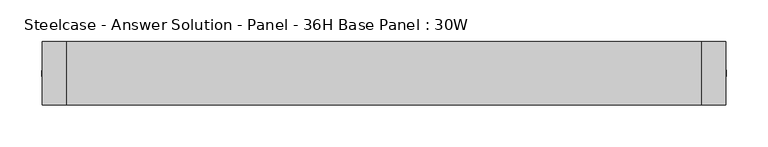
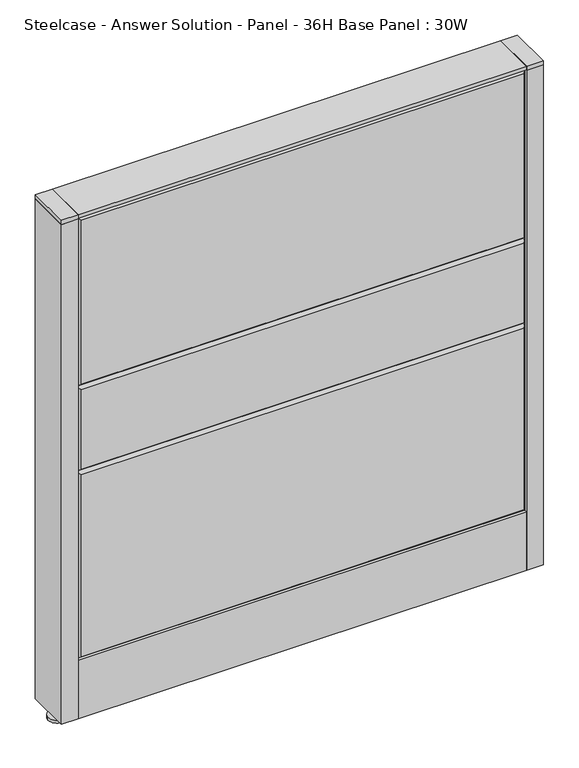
"""IFC4 building model written with IfcOpenShell, lengths in millimetres: furniture geometry, Steelcase - Answer Solution - Panel - 36H Base Panel : 30W."""

from ifc_helpers import new_model, si_unit, point, frame, frame_2d, origin, place, context, project, spatial, polyline, circle_curve, trimmed, segment, composite_curve, outline, extrude, faceted_brep, source, transform, mapped, element, save


def steelcase_answer_solution_panel_36h_base_panel_30w_16481c69(model_context):
    return source(origin(), model_context, "Body", "SolidModel", [
        extrude(outline(composite_curve([segment(trimmed(circle_curve(frame_2d((395.224, 0.0320214)), 5.08), [point((400.304, 0.0320214))], [point((390.144, 0.0320214))], False, "CARTESIAN"), True, "CONTINUOUS"), segment(trimmed(circle_curve(frame_2d((395.224, 0.0320214)), 5.08), [point((390.144, 0.0320214))], [point((400.304, 0.0320214))], False, "CARTESIAN"), True, "CONTINUOUS")], self_intersect=False)), frame((0.0, 0.0, 5.0799671), z_axis=(0.0, 0.0, 1.0), x_axis=(1.0, 0.0, 0.0)), (0.0, 0.0, 1.0), 10.414),
        extrude(outline(composite_curve([segment(trimmed(circle_curve(frame_2d((395.224, 0.0320214)), 15.24), [point((410.464, 0.0320214))], [point((379.984, 0.0320214))], False, "CARTESIAN"), True, "CONTINUOUS"), segment(trimmed(circle_curve(frame_2d((395.224, 0.0320214)), 15.24), [point((379.984, 0.0320214))], [point((410.464, 0.0320214))], False, "CARTESIAN"), True, "CONTINUOUS")], self_intersect=False)), frame((0.0, 0.0, -3.29e-05), z_axis=(0.0, 0.0, 1.0), x_axis=(1.0, 0.0, 0.0)), (0.0, 0.0, 1.0), 5.08),
        extrude(outline(polyline([(409.575, 38.1320408), (409.575, -38.0679592), (381.0, -38.0679592), (381.0, 38.1320408), (409.575, 38.1320408)])), frame((0.0, 0.0, 913.4348), z_axis=(0.0, 0.0, 1.0), x_axis=(1.0, 0.0, 0.0)), (0.0, 0.0, 1.0), 7.3151671),
        extrude(outline(polyline([(409.575, 38.1320408), (409.575, -38.0679592), (381.0, -38.0679592), (381.0, 38.1320408), (409.575, 38.1320408)])), frame((0.0, 0.0, 15.4939671), z_axis=(0.0, 0.0, 1.0), x_axis=(1.0, 0.0, 0.0)), (0.0, 0.0, 1.0), 897.9408329),
        extrude(outline(composite_curve([segment(trimmed(circle_curve(frame_2d((-395.224, -0.0320214)), 5.08), [point((-400.304, -0.0320214))], [point((-390.144, -0.0320214))], False, "CARTESIAN"), True, "CONTINUOUS"), segment(trimmed(circle_curve(frame_2d((-395.224, -0.0320214)), 5.08), [point((-390.144, -0.0320214))], [point((-400.304, -0.0320214))], False, "CARTESIAN"), True, "CONTINUOUS")], self_intersect=False)), frame((0.0, 0.0, 5.0799671), z_axis=(0.0, 0.0, 1.0), x_axis=(1.0, 0.0, 0.0)), (0.0, 0.0, 1.0), 10.414),
        extrude(outline(composite_curve([segment(trimmed(circle_curve(frame_2d((-395.224, -0.0320214)), 15.24), [point((-410.464, -0.0320214))], [point((-379.984, -0.0320214))], False, "CARTESIAN"), True, "CONTINUOUS"), segment(trimmed(circle_curve(frame_2d((-395.224, -0.0320214)), 15.24), [point((-379.984, -0.0320214))], [point((-410.464, -0.0320214))], False, "CARTESIAN"), True, "CONTINUOUS")], self_intersect=False)), frame((0.0, 0.0, -3.29e-05), z_axis=(0.0, 0.0, 1.0), x_axis=(1.0, 0.0, 0.0)), (0.0, 0.0, 1.0), 5.08),
        extrude(outline(polyline([(-409.575, -38.1320408), (-409.575, 38.0679592), (-381.0, 38.0679592), (-381.0, -38.1320408), (-409.575, -38.1320408)])), frame((0.0, 0.0, 913.4348), z_axis=(0.0, 0.0, 1.0), x_axis=(1.0, 0.0, 0.0)), (0.0, 0.0, 1.0), 7.3151671),
        extrude(outline(polyline([(-409.575, -38.1320408), (-409.575, 38.0679592), (-381.0, 38.0679592), (-381.0, -38.1320408), (-409.575, -38.1320408)])), frame((0.0, 0.0, 15.4939671), z_axis=(0.0, 0.0, 1.0), x_axis=(1.0, 0.0, 0.0)), (0.0, 0.0, 1.0), 897.9408329),
        faceted_brep([(376.174, 38.1635011, 909.574), (376.174, 38.1635011, 766.826), (-376.174, 38.1635011, 766.826), (-376.174, 38.1635011, 909.574), (381.0, 33.3375011, 914.4), (-381.0, 33.3375011, 914.4), (-381.0, 33.3375011, 762.0), (381.0, 33.3375011, 762.0)], [[[0, 1, 2, 3]], [[4, 5, 6, 7]], [[4, 0, 3, 5]], [[5, 3, 2, 6]], [[6, 2, 1, 7]], [[7, 1, 0, 4]]]),
        faceted_brep([(376.174, 38.1635011, 757.174), (376.174, 38.1635011, 614.426), (-376.174, 38.1635011, 614.426), (-376.174, 38.1635011, 757.174), (381.0, 33.3375011, 762.0), (-381.0, 33.3375011, 762.0), (-381.0, 33.3375011, 609.6), (381.0, 33.3375011, 609.6)], [[[0, 1, 2, 3]], [[4, 5, 6, 7]], [[4, 0, 3, 5]], [[5, 3, 2, 6]], [[6, 2, 1, 7]], [[7, 1, 0, 4]]]),
        faceted_brep([(376.174, 38.1635011, 604.774), (376.174, 38.1635011, 125.476), (-376.174, 38.1635011, 125.476), (-376.174, 38.1635011, 604.774), (381.0, 33.3375011, 609.6), (-381.0, 33.3375011, 609.6), (-381.0, 33.3375011, 120.65), (381.0, 33.3375011, 120.65)], [[[0, 1, 2, 3]], [[4, 5, 6, 7]], [[4, 0, 3, 5]], [[5, 3, 2, 6]], [[6, 2, 1, 7]], [[7, 1, 0, 4]]]),
        faceted_brep([(376.174, -38.1635011, 909.574), (-376.174, -38.1635011, 909.574), (-376.174, -38.1635011, 614.426), (376.174, -38.1635011, 614.426), (381.0, -33.3375011, 914.4), (381.0, -33.3375011, 609.6), (-381.0, -33.3375011, 609.6), (-381.0, -33.3375011, 914.4)], [[[0, 1, 2, 3]], [[4, 5, 6, 7]], [[4, 7, 1, 0]], [[7, 6, 2, 1]], [[6, 5, 3, 2]], [[5, 4, 0, 3]]]),
        faceted_brep([(376.174, -38.1635011, 604.774), (-376.174, -38.1635011, 604.774), (-376.174, -38.1635011, 462.026), (376.174, -38.1635011, 462.026), (381.0, -33.3375011, 609.6), (381.0, -33.3375011, 457.2), (-381.0, -33.3375011, 457.2), (-381.0, -33.3375011, 609.6)], [[[0, 1, 2, 3]], [[4, 5, 6, 7]], [[4, 7, 1, 0]], [[7, 6, 2, 1]], [[6, 5, 3, 2]], [[5, 4, 0, 3]]]),
        faceted_brep([(376.174, -38.1635011, 452.374), (-376.174, -38.1635011, 452.374), (-376.174, -38.1635011, 125.476), (376.174, -38.1635011, 125.476), (381.0, -33.3375011, 457.2), (381.0, -33.3375011, 120.65), (-381.0, -33.3375011, 120.65), (-381.0, -33.3375011, 457.2)], [[[0, 1, 2, 3]], [[4, 5, 6, 7]], [[4, 7, 1, 0]], [[7, 6, 2, 1]], [[6, 5, 3, 2]], [[5, 4, 0, 3]]]),
        extrude(outline(polyline([(381.0, 38.1000194), (381.0, -38.1000194), (-381.0, -38.1000194), (-381.0, 38.1000194), (381.0, 38.1000194)])), frame((0.0, 0.0, 914.4), z_axis=(0.0, 0.0, 1.0), x_axis=(1.0, 0.0, 0.0)), (0.0, 0.0, 1.0), 6.35),
        extrude(outline(polyline([(37.3075215, 119.8575157), (25.4000011, 119.8575157), (25.4000011, 120.65), (38.1000194, 120.65), (38.1000194, 15.494), (37.3075215, 15.494), (37.3075215, 119.8575157)])), frame((-381.0, 0.0, 0.0), z_axis=(1.0, 0.0, 0.0), x_axis=(0.0, 1.0, 0.0)), (0.0, 0.0, 1.0), 762.0),
        extrude(outline(polyline([(-37.3075215, 119.8575157), (-37.3075215, 15.494), (-38.1000194, 15.494), (-38.1000194, 120.65), (-25.4000011, 120.65), (-25.4000011, 119.8575157), (-37.3075215, 119.8575157)])), frame((-381.0, 0.0, 0.0), z_axis=(1.0, 0.0, 0.0), x_axis=(0.0, 1.0, 0.0)), (0.0, 0.0, 1.0), 762.0),
    ])


if __name__ == "__main__":
    model = new_model("IFC4")
    model_context = context("Model", 3, world=origin())
    ifc_project = project(units=[si_unit("LENGTHUNIT", "METRE", prefix="MILLI")], contexts=[model_context])
    site = spatial("IfcSite", under=ifc_project)
    building = spatial("IfcBuilding", under=site)
    placement = place(None, origin())
    steelcase_answer_solution_panel_36h_base_panel_30w_shape = steelcase_answer_solution_panel_36h_base_panel_30w_16481c69(model_context)
    element("IfcFurniture", 1, ObjectType="Steelcase - Answer Solution - Panel - 36H Base Panel : 30W", at=placement, inside=building, context=model_context, shape_type="MappedRepresentation", body=[
        mapped(steelcase_answer_solution_panel_36h_base_panel_30w_shape, transform((0.0, 0.0, 0.0), x_axis=(1.0, 0.0, 0.0), y_axis=(0.0, 1.0, 0.0), z_axis=(0.0, 0.0, 1.0))),
    ])
    save(model, "model.ifc")
